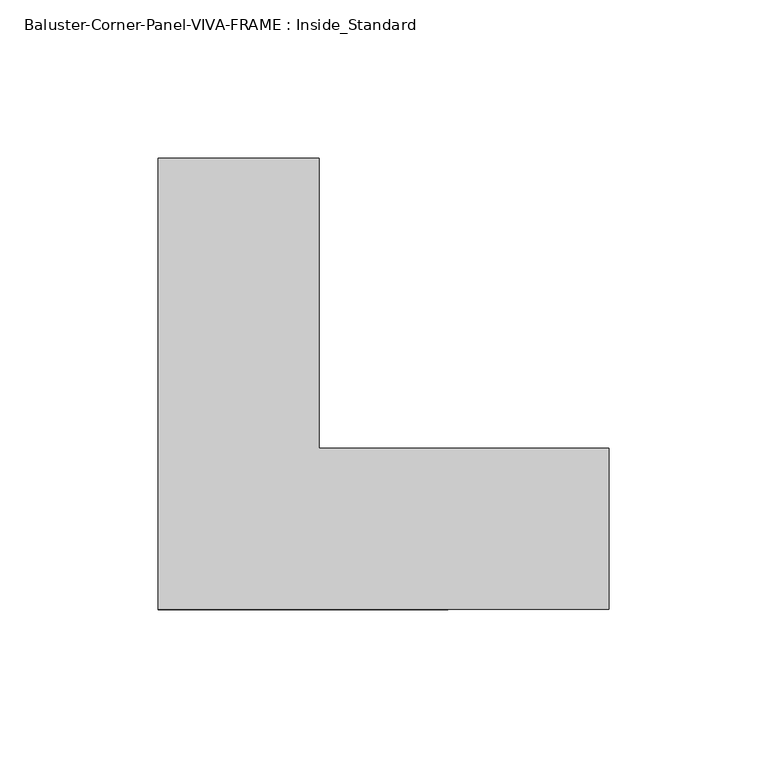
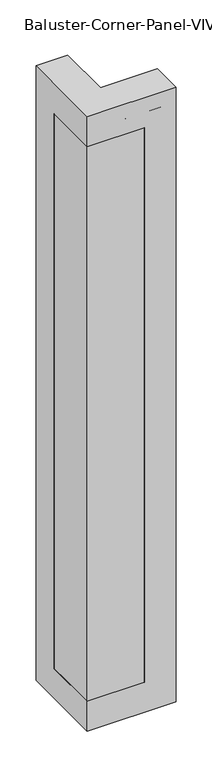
"""IFC4 building model written with IfcOpenShell, lengths in millimetres: railing geometry, Baluster-Corner-Panel-VIVA-FRAME : Inside_Standard."""

from ifc_helpers import new_model, si_unit, frame, origin, place, context, project, spatial, polyline, outline, extrude, faceted_brep, source, transform, mapped, element, save


def baluster_corner_panel_viva_frame_inside_standard_3efb34d5(model_context):
    return source(origin(), model_context, "Body", "SolidModel", [
        faceted_brep([(0.0, 142.24, 76.4512), (0.0, 142.24, 1117.6), (50.8, 142.24, 1117.6), (50.8, 142.24, 76.4512), (0.0, 0.0, 127.2512), (0.0, 91.44, 127.2512), (0.0, 91.44, 1066.8), (0.0, 0.0, 1066.8), (0.0, 0.0, 1117.6), (0.0, 0.0, 76.4512), (142.24, 0.0, 76.4512), (142.24, 0.0, 1117.6), (91.44, 0.0, 1066.8), (91.44, 0.0, 127.2512), (142.24, 50.8, 76.4512), (142.24, 50.8, 1117.6), (50.8, 50.8, 1117.6), (50.8, 50.8, 1111.6056), (50.8, 136.2456, 1111.6056), (50.8, 136.2456, 82.4456), (50.8, 50.8, 82.4456), (50.8, 50.8, 76.4512), (136.2456, 50.8, 1111.6056), (136.2456, 19.9898, 1111.6056), (19.9898, 19.9898, 1111.6056), (19.9898, 136.2456, 1111.6056), (19.9898, 19.9898, 1066.8), (19.9898, 91.44, 1066.8), (19.9898, 91.44, 127.2512), (19.9898, 19.9898, 127.2512), (19.9898, 19.9898, 82.4456), (19.9898, 136.2456, 82.4456), (91.44, 19.9898, 1066.8), (136.2456, 50.8, 82.4456), (136.2456, 19.9898, 82.4456), (91.44, 19.9898, 127.2512)], [[[0, 1, 2, 3]], [[4, 5, 6, 7, 8, 1, 0, 9]], [[4, 9, 10, 11, 8, 7, 12, 13]], [[14, 15, 11, 10]], [[16, 17, 18, 19, 20, 21, 3, 2]], [[17, 22, 23, 24, 25, 18]], [[24, 26, 27, 28, 29, 30, 31, 25]], [[12, 7, 6, 27, 26, 32]], [[2, 1, 8, 11, 15, 16]], [[17, 16, 15, 14, 21, 20, 33, 22]], [[26, 24, 23, 34, 30, 29, 35, 32]], [[21, 14, 10, 9, 0, 3]], [[34, 23, 22, 33]], [[12, 32, 35, 13]], [[27, 6, 5, 28]], [[18, 25, 31, 19]], [[4, 13, 35, 29, 28, 5]], [[20, 19, 31, 30, 34, 33]]]),
        extrude(outline(polyline([(117.24, 0.0), (0.0, 0.0), (0.0, 117.24), (3.0, 117.24), (3.0, 3.0), (117.24, 3.0), (117.24, 0.0)])), frame((0.0, 0.0, 101.4512), z_axis=(0.0, 0.0, 1.0), x_axis=(1.0, 0.0, 0.0)), (0.0, 0.0, 1.0), 991.1488),
    ])


if __name__ == "__main__":
    model = new_model("IFC4")
    model_context = context("Model", 3, world=origin())
    ifc_project = project(units=[si_unit("LENGTHUNIT", "METRE", prefix="MILLI")], contexts=[model_context])
    site = spatial("IfcSite", under=ifc_project)
    building = spatial("IfcBuilding", under=site)
    placement = place(None, origin())
    baluster_corner_panel_viva_frame_inside_standard_shape = baluster_corner_panel_viva_frame_inside_standard_3efb34d5(model_context)
    element("IfcRailing", 1, ObjectType="Baluster-Corner-Panel-VIVA-FRAME : Inside_Standard", at=placement, inside=building, context=model_context, shape_type="MappedRepresentation", body=[
        mapped(baluster_corner_panel_viva_frame_inside_standard_shape, transform((0.0, 0.0, 0.0), x_axis=(1.0, 0.0, 0.0), y_axis=(0.0, 1.0, 0.0), z_axis=(0.0, 0.0, 1.0))),
    ])
    save(model, "model.ifc")
